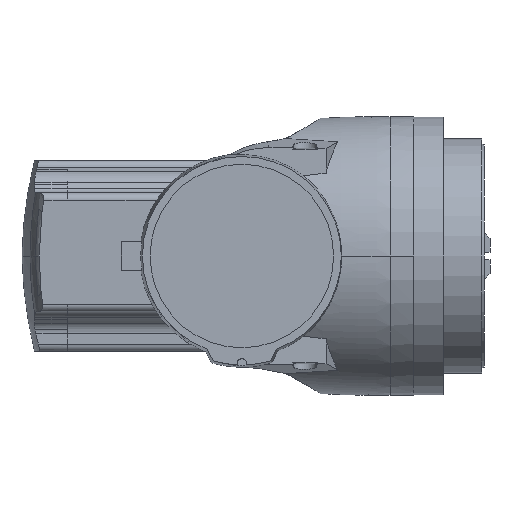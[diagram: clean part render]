
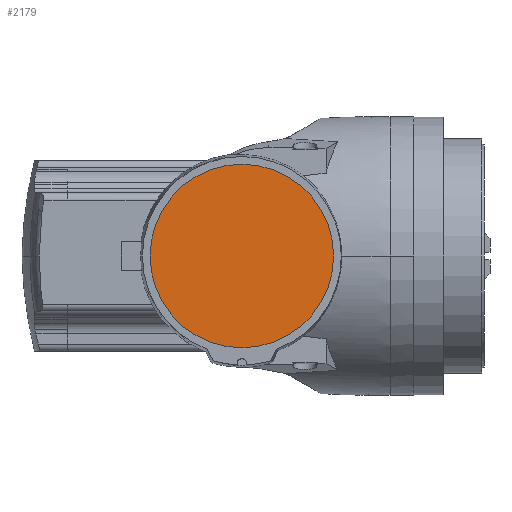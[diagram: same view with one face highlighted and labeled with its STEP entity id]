
A CAD part, front view. The second image highlights one B-rep face of the part: STEP entity #2179.
In plain terms, the highlighted planar face has unit normal (0, -1, 0).
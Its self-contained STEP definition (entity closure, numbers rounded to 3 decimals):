
#2179 = ADVANCED_FACE ( 'NONE', ( #11736 ), #8176, .F. ) ;
#2360 = DIRECTION ( 'NONE',  ( 1., 0., 0. ) ) ;
#2361 = DIRECTION ( 'NONE',  ( 0., 1., 0. ) ) ;
#2362 = CARTESIAN_POINT ( 'NONE',  ( 1502.5, -95., 2260. ) ) ;
#3552 = CARTESIAN_POINT ( 'NONE',  ( 1440., -95., 2260. ) ) ;
#5971 = DIRECTION ( 'NONE',  ( 1., 0., 0. ) ) ;
#5975 = DIRECTION ( 'NONE',  ( 0., 1., 0. ) ) ;
#6084 = CARTESIAN_POINT ( 'NONE',  ( 1502.5, -95., 2260. ) ) ;
#6612 = CIRCLE ( 'NONE', #10244, 62.5 ) ;
#7139 = CARTESIAN_POINT ( 'NONE',  ( 1565., -95., 2260. ) ) ;
#7925 = CARTESIAN_POINT ( 'NONE',  ( 1444.5, -95., 2260. ) ) ;
#7991 = DIRECTION ( 'NONE',  ( 0., 1., 0. ) ) ;
#8143 = DIRECTION ( 'NONE',  ( -1., 0., 0. ) ) ;
#8176 = PLANE ( 'NONE',  #9329 ) ;
#8445 = VERTEX_POINT ( 'NONE', #3552 ) ;
#9329 = AXIS2_PLACEMENT_3D ( 'NONE', #7925, #7991, #8143 ) ;
#9405 = VERTEX_POINT ( 'NONE', #7139 ) ;
#10119 = EDGE_LOOP ( 'NONE', ( #13340, #13351 ) ) ;
#10244 = AXIS2_PLACEMENT_3D ( 'NONE', #6084, #5975, #5971 ) ;
#10313 = AXIS2_PLACEMENT_3D ( 'NONE', #2362, #2361, #2360 ) ;
#10535 = EDGE_CURVE ( 'NONE', #9405, #8445, #6612, .T. ) ;
#10862 = EDGE_CURVE ( 'NONE', #8445, #9405, #12162, .T. ) ;
#11736 = FACE_OUTER_BOUND ( 'NONE', #10119, .T. ) ;
#12162 = CIRCLE ( 'NONE', #10313, 62.5 ) ;
#13340 = ORIENTED_EDGE ( 'NONE', *, *, #10862, .F. ) ;
#13351 = ORIENTED_EDGE ( 'NONE', *, *, #10535, .F. ) ;
